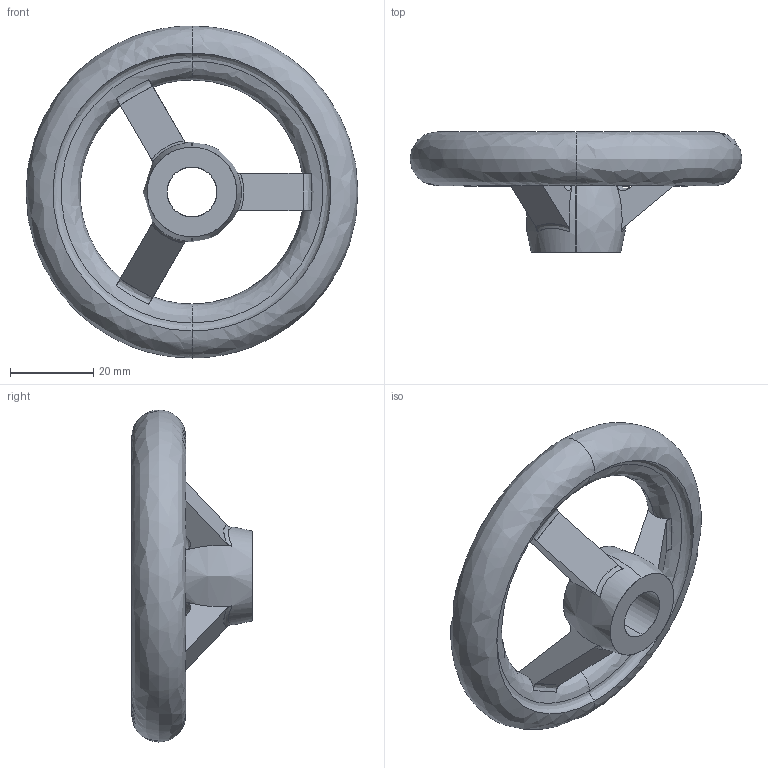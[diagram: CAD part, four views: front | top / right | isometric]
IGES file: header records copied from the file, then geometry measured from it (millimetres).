
Start section: SolidWorks IGES file using analytic representation for surfaces
Global section: file name: C:\Users\IanO\Desktop\Temp File\Process pending\77120_v2\77120_v2_20171108_IGES\77120.W0001.igs; native system: SolidWorks 2017; preprocessor: SolidWorks 2017; author: IanO; date: 171108.084001; units: millimetre
Bounding box: 80 x 29 x 80 mm (x, y, z)
Surface area: 12352.9 mm2 (no closed solid volume)
Topology: 0 solids, 0 shells, 43 faces, 781 edges, 773 vertices
Faces by surface type: bspline 41, revolution 2
